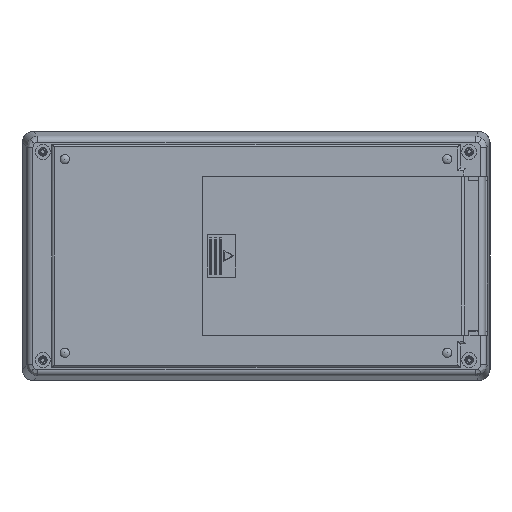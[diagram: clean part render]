
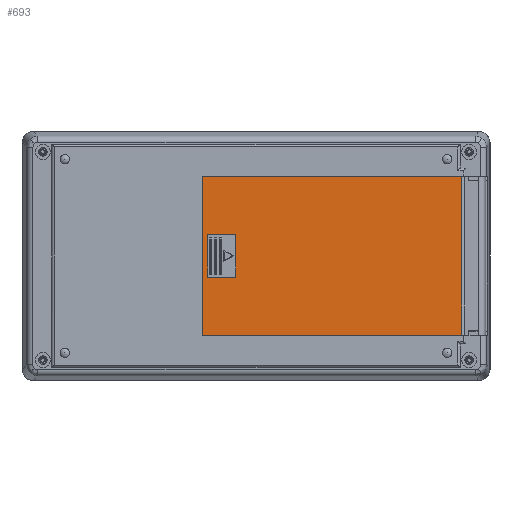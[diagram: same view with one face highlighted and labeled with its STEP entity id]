
A CAD part, front view. The second image highlights one B-rep face of the part: STEP entity #693.
In plain terms, the highlighted planar face has unit normal (0, -1, 0).
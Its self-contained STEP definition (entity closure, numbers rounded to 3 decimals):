
#559 = VECTOR ( 'NONE', #11719, 1000. ) ;
#644 = VECTOR ( 'NONE', #6488, 1000. ) ;
#691 = EDGE_CURVE ( 'NONE', #3236, #11835, #13915, .T. ) ;
#693 = ADVANCED_FACE ( 'NONE', ( #17177, #22195 ), #17622, .F. ) ;
#751 = CARTESIAN_POINT ( 'NONE',  ( 130.956, 0., -32.4 ) ) ;
#1383 = VECTOR ( 'NONE', #3513, 1000. ) ;
#1594 = CARTESIAN_POINT ( 'NONE',  ( 25.2, 0., -32.4 ) ) ;
#1859 = LINE ( 'NONE', #10217, #644 ) ;
#1998 = LINE ( 'NONE', #1594, #1383 ) ;
#2763 = ORIENTED_EDGE ( 'NONE', *, *, #10447, .F. ) ;
#2776 = DIRECTION ( 'NONE',  ( 0., 0., -1. ) ) ;
#2824 = EDGE_CURVE ( 'NONE', #3763, #8186, #23253, .T. ) ;
#3167 = AXIS2_PLACEMENT_3D ( 'NONE', #21198, #16705, #15322 ) ;
#3236 = VERTEX_POINT ( 'NONE', #14319 ) ;
#3272 = ORIENTED_EDGE ( 'NONE', *, *, #17261, .T. ) ;
#3513 = DIRECTION ( 'NONE',  ( 1., 0., 0. ) ) ;
#3763 = VERTEX_POINT ( 'NONE', #11352 ) ;
#4252 = VECTOR ( 'NONE', #20213, 1000. ) ;
#4956 = VERTEX_POINT ( 'NONE', #7249 ) ;
#5335 = EDGE_LOOP ( 'NONE', ( #17685, #9260, #23388, #3272 ) ) ;
#5971 = EDGE_CURVE ( 'NONE', #4956, #15683, #19429, .T. ) ;
#6488 = DIRECTION ( 'NONE',  ( 0., 0., -1. ) ) ;
#6828 = CARTESIAN_POINT ( 'NONE',  ( 27.2, 0., -8.75 ) ) ;
#7249 = CARTESIAN_POINT ( 'NONE',  ( 38.7, 0., -8.75 ) ) ;
#7562 = CARTESIAN_POINT ( 'NONE',  ( 38.7, 0., -8.75 ) ) ;
#8186 = VERTEX_POINT ( 'NONE', #751 ) ;
#8579 = DIRECTION ( 'NONE',  ( -1., 0., 0. ) ) ;
#8911 = VERTEX_POINT ( 'NONE', #13958 ) ;
#9260 = ORIENTED_EDGE ( 'NONE', *, *, #2824, .F. ) ;
#9824 = CARTESIAN_POINT ( 'NONE',  ( 25.2, 0., 32.4 ) ) ;
#10217 = CARTESIAN_POINT ( 'NONE',  ( 25.2, 0., 32.4 ) ) ;
#10447 = EDGE_CURVE ( 'NONE', #15683, #3236, #22904, .T. ) ;
#11352 = CARTESIAN_POINT ( 'NONE',  ( 130.956, 0., 32.4 ) ) ;
#11719 = DIRECTION ( 'NONE',  ( 1., 0., 0. ) ) ;
#11835 = VERTEX_POINT ( 'NONE', #6828 ) ;
#12140 = VECTOR ( 'NONE', #13090, 1000. ) ;
#12188 = EDGE_CURVE ( 'NONE', #8911, #3763, #15135, .T. ) ;
#13090 = DIRECTION ( 'NONE',  ( 0., 0., -1. ) ) ;
#13459 = EDGE_CURVE ( 'NONE', #20081, #8186, #1998, .T. ) ;
#13915 = LINE ( 'NONE', #24310, #12140 ) ;
#13958 = CARTESIAN_POINT ( 'NONE',  ( 25.2, 0., 32.4 ) ) ;
#14319 = CARTESIAN_POINT ( 'NONE',  ( 27.2, 0., 8.75 ) ) ;
#15135 = LINE ( 'NONE', #9824, #559 ) ;
#15322 = DIRECTION ( 'NONE',  ( 0., 0., 1. ) ) ;
#15683 = VERTEX_POINT ( 'NONE', #19884 ) ;
#16072 = CARTESIAN_POINT ( 'NONE',  ( 130.956, 0., 32.4 ) ) ;
#16296 = EDGE_LOOP ( 'NONE', ( #2763, #24178, #23615, #19633 ) ) ;
#16705 = DIRECTION ( 'NONE',  ( 0., 1., 0. ) ) ;
#17090 = DIRECTION ( 'NONE',  ( 1., 0., 0. ) ) ;
#17177 = FACE_BOUND ( 'NONE', #16296, .T. ) ;
#17261 = EDGE_CURVE ( 'NONE', #8911, #20081, #1859, .T. ) ;
#17283 = VECTOR ( 'NONE', #8579, 1000. ) ;
#17622 = PLANE ( 'NONE',  #3167 ) ;
#17685 = ORIENTED_EDGE ( 'NONE', *, *, #13459, .T. ) ;
#18010 = CARTESIAN_POINT ( 'NONE',  ( 38.7, 0., 8.75 ) ) ;
#18307 = CARTESIAN_POINT ( 'NONE',  ( 38.7, 0., 8.75 ) ) ;
#18388 = EDGE_CURVE ( 'NONE', #11835, #4956, #21122, .T. ) ;
#19429 = LINE ( 'NONE', #18307, #4252 ) ;
#19633 = ORIENTED_EDGE ( 'NONE', *, *, #691, .F. ) ;
#19884 = CARTESIAN_POINT ( 'NONE',  ( 38.7, 0., 8.75 ) ) ;
#20081 = VERTEX_POINT ( 'NONE', #24327 ) ;
#20213 = DIRECTION ( 'NONE',  ( 0., 0., 1. ) ) ;
#21122 = LINE ( 'NONE', #7562, #24383 ) ;
#21198 = CARTESIAN_POINT ( 'NONE',  ( 25.2, 0., 32.4 ) ) ;
#22195 = FACE_OUTER_BOUND ( 'NONE', #5335, .T. ) ;
#22665 = VECTOR ( 'NONE', #2776, 1000. ) ;
#22904 = LINE ( 'NONE', #18010, #17283 ) ;
#23253 = LINE ( 'NONE', #16072, #22665 ) ;
#23388 = ORIENTED_EDGE ( 'NONE', *, *, #12188, .F. ) ;
#23615 = ORIENTED_EDGE ( 'NONE', *, *, #18388, .F. ) ;
#24178 = ORIENTED_EDGE ( 'NONE', *, *, #5971, .F. ) ;
#24310 = CARTESIAN_POINT ( 'NONE',  ( 27.2, 0., 8.75 ) ) ;
#24327 = CARTESIAN_POINT ( 'NONE',  ( 25.2, 0., -32.4 ) ) ;
#24383 = VECTOR ( 'NONE', #17090, 1000. ) ;
